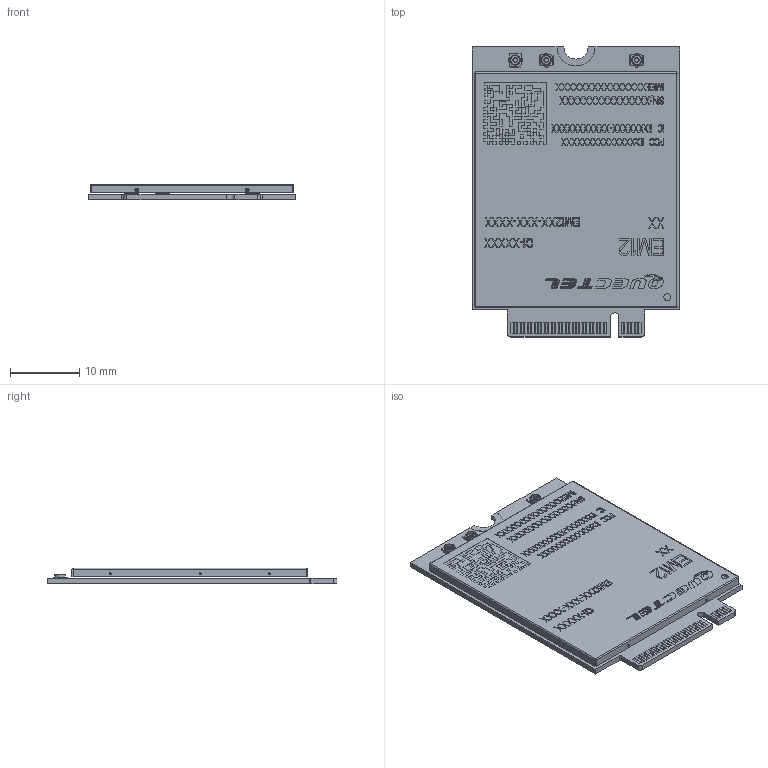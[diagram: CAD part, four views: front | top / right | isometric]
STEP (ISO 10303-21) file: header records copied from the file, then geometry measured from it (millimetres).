
FILE_DESCRIPTION((''),'2;1');
FILE_NAME('QUECTEL_EM12_3DFILE_ASM','2019-04-02T',('siler.liu'),(''),'CREO PARAMETRIC BY PTC INC, 2014190','CREO PARAMETRIC BY PTC INC, 2014190','');
FILE_SCHEMA(('AUTOMOTIVE_DESIGN { 1 0 10303 214 1 1 1 1 }'));
Products named in the file (4): EM12_PCB; EM12-G_COVER_CB_1178; COAXIAL_CONNECTOR_01; QUECTEL_EM12_3DFILE_ASM
Assembly tree (5 placements, depth 2):
  QUECTEL_EM12_3DFILE_ASM
    EM12_PCB
    EM12-G_COVER_CB_1178
    COAXIAL_CONNECTOR_01  x3
Bounding box: 30 x 42 x 2.3 mm (x, y, z)
Volume: 1128.5 mm3; surface area: 4907.1 mm2
Topology: 5 solids, 5 shells, 2818 faces, 7501 edges, 4916 vertices
Faces by surface type: plane 2653, cylinder 79, extrusion 46, sphere 40
Entity records: 107753 total; most frequent: CARTESIAN_POINT 15255, ORIENTED_EDGE 14502, DIRECTION 12805, PRESENTATION_STYLE_ASSIGNMENT 7458, STYLED_ITEM 7254, CURVE_STYLE 7251, EDGE_CURVE 7251, VECTOR 7003
